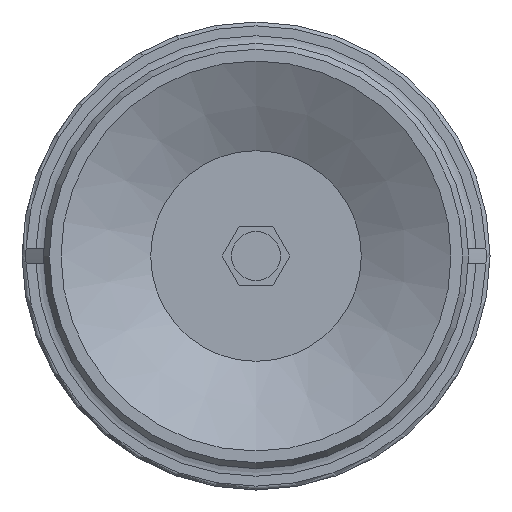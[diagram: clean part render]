
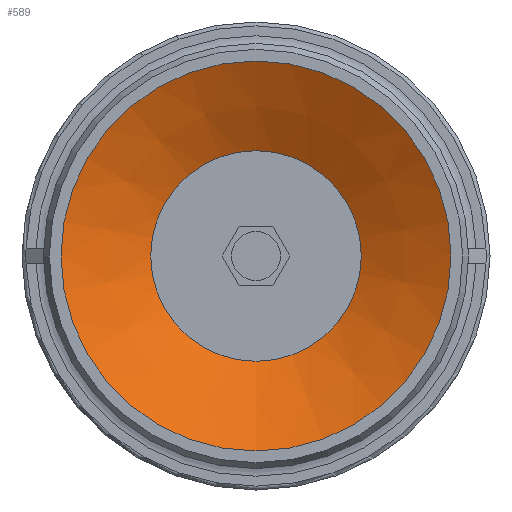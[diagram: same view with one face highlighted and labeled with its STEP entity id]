
A CAD part, front view. The second image highlights one B-rep face of the part: STEP entity #589.
In plain terms, the highlighted conical face has half-angle 61.631 degrees and reference radius 5.4 mm.
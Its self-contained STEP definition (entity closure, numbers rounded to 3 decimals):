
#589=ADVANCED_FACE('',(#916,#917),#918,.F.);
#916=FACE_BOUND('',#1257,.T.);
#917=FACE_OUTER_BOUND('',#1258,.T.);
#918=CONICAL_SURFACE('',#1259,5.4,1.076);
#1257=EDGE_LOOP('',(#2211));
#1258=EDGE_LOOP('',(#2212));
#1259=AXIS2_PLACEMENT_3D('',#2213,#2214,#2215);
#2211=ORIENTED_EDGE('',*,*,#2512,.F.);
#2212=ORIENTED_EDGE('',*,*,#2534,.T.);
#2213=CARTESIAN_POINT('',(0.0,2.484,0.0));
#2214=DIRECTION('',(-0.0,-1.0,0.));
#2215=DIRECTION('',(0.0,0.,-1.0));
#2512=EDGE_CURVE('',#2965,#2965,#2966,.T.);
#2534=EDGE_CURVE('',#2999,#2999,#3000,.T.);
#2965=VERTEX_POINT('',#3909);
#2966=CIRCLE('',#3910,5.4);
#2999=VERTEX_POINT('',#3955);
#3000=CIRCLE('',#3956,10.0);
#3909=CARTESIAN_POINT('',(0.0,2.484,-5.4));
#3910=AXIS2_PLACEMENT_3D('',#4341,#4342,#4343);
#3955=CARTESIAN_POINT('',(0.0,0.,-10.0));
#3956=AXIS2_PLACEMENT_3D('',#4383,#4384,#4385);
#4341=CARTESIAN_POINT('',(0.0,2.484,0.0));
#4342=DIRECTION('',(0.0,-1.0,0.));
#4343=DIRECTION('',(0.0,0.,-1.0));
#4383=CARTESIAN_POINT('',(0.0,0.0,0.0));
#4384=DIRECTION('',(0.0,-1.0,0.));
#4385=DIRECTION('',(0.0,0.,-1.0));
